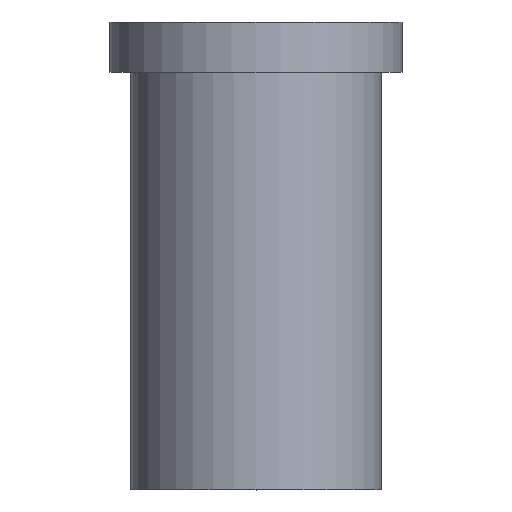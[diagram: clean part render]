
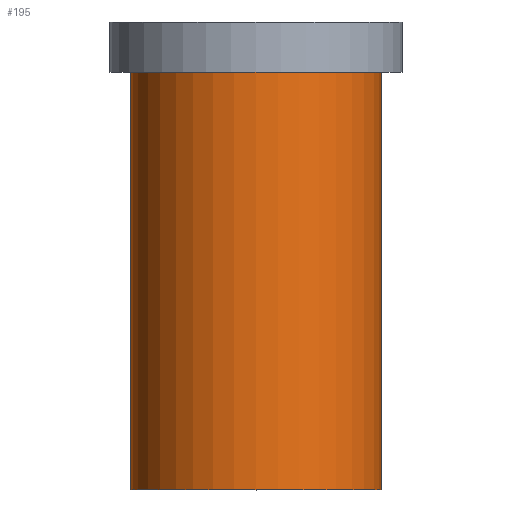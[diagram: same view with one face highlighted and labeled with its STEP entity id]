
A CAD part, top view. The second image highlights one B-rep face of the part: STEP entity #195.
In plain terms, the highlighted cylindrical face has radius 15 mm (diameter 30 mm), a full revolution.
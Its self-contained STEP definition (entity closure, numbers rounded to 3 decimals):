
#32=ORIENTED_EDGE('',*,*,#50,.T.);
#33=ORIENTED_EDGE('',*,*,#49,.F.);
#49=EDGE_CURVE('',#59,#59,#69,.T.);
#50=EDGE_CURVE('',#60,#60,#70,.T.);
#59=VERTEX_POINT('',#280);
#60=VERTEX_POINT('',#283);
#69=CIRCLE('',#213,15.);
#70=CIRCLE('',#215,15.);
#82=EDGE_LOOP('',(#32));
#83=EDGE_LOOP('',(#33));
#102=FACE_BOUND('',#82,.T.);
#103=FACE_BOUND('',#83,.T.);
#117=CYLINDRICAL_SURFACE('',#214,15.);
#195=ADVANCED_FACE('',(#102,#103),#117,.T.);
#213=AXIS2_PLACEMENT_3D('',#279,#241,#242);
#214=AXIS2_PLACEMENT_3D('',#281,#243,#244);
#215=AXIS2_PLACEMENT_3D('',#282,#245,#246);
#241=DIRECTION('',(0.,-1.,0.));
#242=DIRECTION('',(0.,0.,-1.));
#243=DIRECTION('',(0.,-1.,0.));
#244=DIRECTION('',(0.,0.,-1.));
#245=DIRECTION('',(0.,-1.,0.));
#246=DIRECTION('',(0.,0.,-1.));
#279=CARTESIAN_POINT('',(0.,0.,0.));
#280=CARTESIAN_POINT('',(0.,0.,-15.));
#281=CARTESIAN_POINT('',(0.,0.,0.));
#282=CARTESIAN_POINT('',(0.,50.,0.));
#283=CARTESIAN_POINT('',(0.,50.,-15.));
